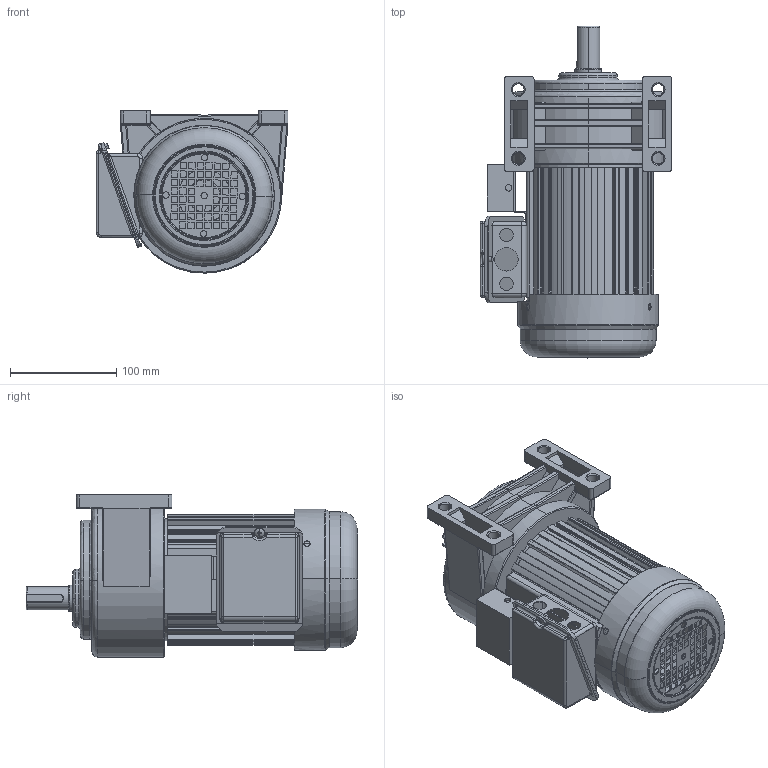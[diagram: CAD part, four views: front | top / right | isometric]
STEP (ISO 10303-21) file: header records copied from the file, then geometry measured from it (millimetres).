
FILE_DESCRIPTION (( 'STEP AP203' ), '1' );
FILE_NAME ('单相200W配2#卧式带刹车.STEP', '2020-04-23T03:38:39', ( 'china' ), ( 'china' ), 'SwSTEP 2.0', 'SolidWorks 2019', '' );
FILE_SCHEMA (( 'CONFIG_CONTROL_DESIGN' ));
Length unit declared in the file: millimetre
Products named in the file (5): 100W棠憤迖殤; 100W价陬瑞欶; 淕霜ん; 单相200W配2#卧式带刹车; 等眈200W2#拏宒
Assembly tree (4 placements, depth 2):
  单相200W配2#卧式带刹车
    等眈200W2#拏宒
    100W棠憤迖殤
    100W价陬瑞欶
    淕霜ん
Bounding box: 180.9 x 312.81 x 153 mm (x, y, z)
Volume: 2037407.5 mm3; surface area: 404600.5 mm2
Topology: 8 solids, 8 shells, 1104 faces, 3007 edges, 1931 vertices
Faces by surface type: plane 465, cylinder 450, bspline 98, torus 56, cone 29, sphere 6
Entity records: 42337 total; most frequent: CARTESIAN_POINT 13709, ORIENTED_EDGE 5978, DIRECTION 5802, EDGE_CURVE 2989, AXIS2_PLACEMENT_3D 2061, VERTEX_POINT 1931, VECTOR 1680, LINE 1680
